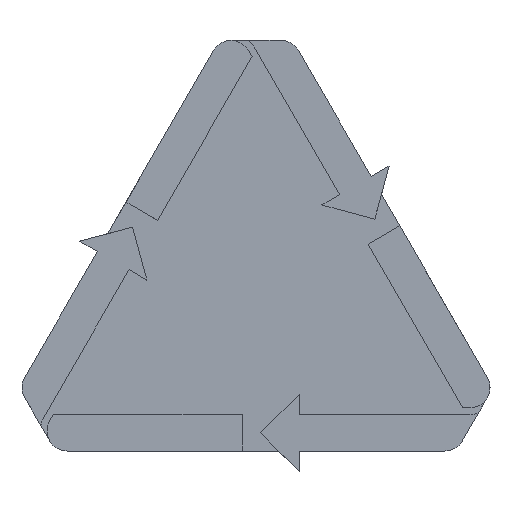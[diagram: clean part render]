
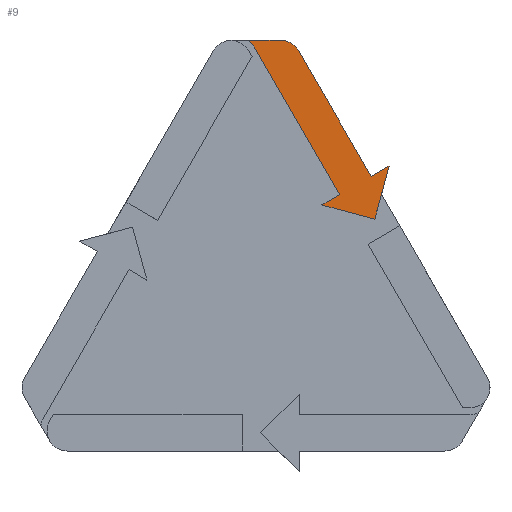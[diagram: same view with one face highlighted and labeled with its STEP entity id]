
A CAD part, top view. The second image highlights one B-rep face of the part: STEP entity #9.
In plain terms, the highlighted planar face has unit normal (0, 0, 1).
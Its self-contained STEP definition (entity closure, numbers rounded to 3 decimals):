
#9 = ADVANCED_FACE ( 'NONE', ( #705 ), #1250, .T. ) ;
#26 = VERTEX_POINT ( 'NONE', #863 ) ;
#36 = VERTEX_POINT ( 'NONE', #78 ) ;
#63 = CARTESIAN_POINT ( 'NONE',  ( 5.485, 50.936, 0.3 ) ) ;
#66 = ORIENTED_EDGE ( 'NONE', *, *, #1342, .F. ) ;
#70 = EDGE_CURVE ( 'NONE', #1463, #181, #1035, .T. ) ;
#77 = DIRECTION ( 'NONE',  ( -0.966, 0.259, 0. ) ) ;
#78 = CARTESIAN_POINT ( 'NONE',  ( 29.147, 27.798, 0.3 ) ) ;
#83 = CARTESIAN_POINT ( 'NONE',  ( 20.245, -5.425, 0.3 ) ) ;
#86 = VECTOR ( 'NONE', #142, 1000. ) ;
#142 = DIRECTION ( 'NONE',  ( -1., 0., 0. ) ) ;
#181 = VERTEX_POINT ( 'NONE', #795 ) ;
#182 = CARTESIAN_POINT ( 'NONE',  ( 5.485, 55.359, 0.3 ) ) ;
#190 = VERTEX_POINT ( 'NONE', #392 ) ;
#205 = AXIS2_PLACEMENT_3D ( 'NONE', #635, #531, #790 ) ;
#214 = LINE ( 'NONE', #630, #1389 ) ;
#215 = ORIENTED_EDGE ( 'NONE', *, *, #1625, .F. ) ;
#223 = CARTESIAN_POINT ( 'NONE',  ( -4.75, 8.227, 0.3 ) ) ;
#321 = CARTESIAN_POINT ( 'NONE',  ( 5.791, 21.611, 0.3 ) ) ;
#328 = ORIENTED_EDGE ( 'NONE', *, *, #741, .F. ) ;
#349 = LINE ( 'NONE', #83, #865 ) ;
#361 = DIRECTION ( 'NONE',  ( -0.5, 0.866, 0. ) ) ;
#368 = EDGE_CURVE ( 'NONE', #1060, #1508, #851, .T. ) ;
#392 = CARTESIAN_POINT ( 'NONE',  ( 14.425, 19.298, 0.3 ) ) ;
#406 = ORIENTED_EDGE ( 'NONE', *, *, #1146, .T. ) ;
#414 = CARTESIAN_POINT ( 'NONE',  ( 18.322, 21.548, 0.3 ) ) ;
#515 = CIRCLE ( 'NONE', #1110, 4.423 ) ;
#531 = DIRECTION ( 'NONE',  ( 0., 0., 1. ) ) ;
#577 = ORIENTED_EDGE ( 'NONE', *, *, #1554, .F. ) ;
#588 = DIRECTION ( 'NONE',  ( 0., 0., 1. ) ) ;
#599 = DIRECTION ( 'NONE',  ( -0.5, 0.866, 0. ) ) ;
#630 = CARTESIAN_POINT ( 'NONE',  ( 23.072, 13.321, 0.3 ) ) ;
#635 = CARTESIAN_POINT ( 'NONE',  ( -5.485, 50.936, 0.3 ) ) ;
#687 = LINE ( 'NONE', #809, #1611 ) ;
#705 = FACE_OUTER_BOUND ( 'NONE', #813, .T. ) ;
#715 = DIRECTION ( 'NONE',  ( 0.866, 0.5, 0. ) ) ;
#740 = LINE ( 'NONE', #321, #1487 ) ;
#741 = EDGE_CURVE ( 'NONE', #991, #26, #214, .T. ) ;
#750 = ORIENTED_EDGE ( 'NONE', *, *, #368, .T. ) ;
#779 = AXIS2_PLACEMENT_3D ( 'NONE', #844, #588, #1665 ) ;
#790 = DIRECTION ( 'NONE',  ( -0.5, 0.866, 0. ) ) ;
#795 = CARTESIAN_POINT ( 'NONE',  ( 9.315, 53.147, 0.3 ) ) ;
#809 = CARTESIAN_POINT ( 'NONE',  ( -4.75, 8.227, 0.3 ) ) ;
#813 = EDGE_LOOP ( 'NONE', ( #577, #215, #1365, #406, #750, #66, #328, #1233, #971 ) ) ;
#844 = CARTESIAN_POINT ( 'NONE',  ( 0., 0., 0.3 ) ) ;
#851 = LINE ( 'NONE', #1518, #86 ) ;
#863 = CARTESIAN_POINT ( 'NONE',  ( -0.355, 53.897, 0.3 ) ) ;
#865 = VECTOR ( 'NONE', #1530, 1000. ) ;
#896 = VECTOR ( 'NONE', #1310, 1000. ) ;
#948 = CARTESIAN_POINT ( 'NONE',  ( 26.036, 16.187, 0.3 ) ) ;
#958 = CIRCLE ( 'NONE', #205, 5.923 ) ;
#970 = CARTESIAN_POINT ( 'NONE',  ( -1.545, 55.359, 0.3 ) ) ;
#971 = ORIENTED_EDGE ( 'NONE', *, *, #1543, .F. ) ;
#991 = VERTEX_POINT ( 'NONE', #414 ) ;
#1035 = LINE ( 'NONE', #1567, #896 ) ;
#1060 = VERTEX_POINT ( 'NONE', #182 ) ;
#1062 = EDGE_CURVE ( 'NONE', #190, #991, #687, .T. ) ;
#1110 = AXIS2_PLACEMENT_3D ( 'NONE', #63, #1288, #599 ) ;
#1146 = EDGE_CURVE ( 'NONE', #181, #1060, #515, .T. ) ;
#1233 = ORIENTED_EDGE ( 'NONE', *, *, #1062, .F. ) ;
#1250 = PLANE ( 'NONE',  #779 ) ;
#1260 = DIRECTION ( 'NONE',  ( 0.866, 0.5, 0. ) ) ;
#1288 = DIRECTION ( 'NONE',  ( 0., 0., 1. ) ) ;
#1297 = VECTOR ( 'NONE', #1260, 1000. ) ;
#1310 = DIRECTION ( 'NONE',  ( -0.5, 0.866, 0. ) ) ;
#1342 = EDGE_CURVE ( 'NONE', #26, #1508, #958, .T. ) ;
#1360 = CARTESIAN_POINT ( 'NONE',  ( 25.25, 25.548, 0.3 ) ) ;
#1365 = ORIENTED_EDGE ( 'NONE', *, *, #70, .T. ) ;
#1389 = VECTOR ( 'NONE', #361, 1000. ) ;
#1430 = LINE ( 'NONE', #223, #1297 ) ;
#1438 = VERTEX_POINT ( 'NONE', #948 ) ;
#1463 = VERTEX_POINT ( 'NONE', #1360 ) ;
#1487 = VECTOR ( 'NONE', #77, 1000. ) ;
#1508 = VERTEX_POINT ( 'NONE', #970 ) ;
#1518 = CARTESIAN_POINT ( 'NONE',  ( 0., 55.359, 0.3 ) ) ;
#1530 = DIRECTION ( 'NONE',  ( -0.259, -0.966, 0. ) ) ;
#1543 = EDGE_CURVE ( 'NONE', #1438, #190, #740, .T. ) ;
#1554 = EDGE_CURVE ( 'NONE', #36, #1438, #349, .T. ) ;
#1567 = CARTESIAN_POINT ( 'NONE',  ( 30., 17.321, 0.3 ) ) ;
#1611 = VECTOR ( 'NONE', #715, 1000. ) ;
#1625 = EDGE_CURVE ( 'NONE', #1463, #36, #1430, .T. ) ;
#1665 = DIRECTION ( 'NONE',  ( -0.5, 0.866, 0. ) ) ;
